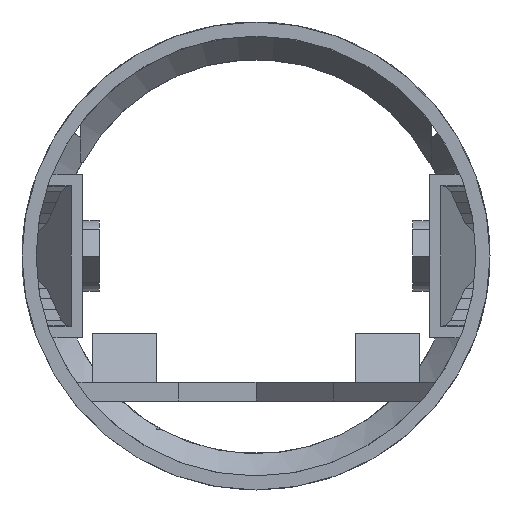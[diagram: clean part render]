
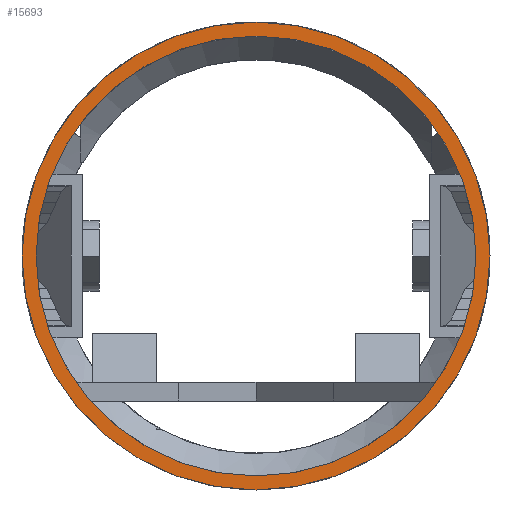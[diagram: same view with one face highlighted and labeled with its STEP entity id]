
A CAD part, left-side view. The second image highlights one B-rep face of the part: STEP entity #15693.
In plain terms, the highlighted planar face has unit normal (-1, 0, 0).
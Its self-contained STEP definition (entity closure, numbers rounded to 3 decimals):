
#21 = EDGE_CURVE('',#22,#22,#24,.T.);
#22 = VERTEX_POINT('',#23);
#23 = CARTESIAN_POINT('',(50.,20.,0.));
#24 = SURFACE_CURVE('',#25,(#30,#42),.PCURVE_S1.);
#25 = CIRCLE('',#26,20.);
#26 = AXIS2_PLACEMENT_3D('',#27,#28,#29);
#27 = CARTESIAN_POINT('',(50.,0.,0.));
#28 = DIRECTION('',(1.,0.,0.));
#29 = DIRECTION('',(-0.,1.,0.));
#30 = PCURVE('',#31,#36);
#31 = CYLINDRICAL_SURFACE('',#32,20.);
#32 = AXIS2_PLACEMENT_3D('',#33,#34,#35);
#33 = CARTESIAN_POINT('',(42.,0.,0.));
#34 = DIRECTION('',(1.,0.,0.));
#35 = DIRECTION('',(-0.,1.,0.));
#36 = DEFINITIONAL_REPRESENTATION('',(#37),#41);
#37 = LINE('',#38,#39);
#38 = CARTESIAN_POINT('',(0.,8.));
#39 = VECTOR('',#40,1.);
#40 = DIRECTION('',(1.,0.));
#41 = ( GEOMETRIC_REPRESENTATION_CONTEXT(2) 
PARAMETRIC_REPRESENTATION_CONTEXT() REPRESENTATION_CONTEXT('2D SPACE',''
  ) );
#42 = PCURVE('',#43,#48);
#43 = PLANE('',#44);
#44 = AXIS2_PLACEMENT_3D('',#45,#46,#47);
#45 = CARTESIAN_POINT('',(50.,-30.,-30.));
#46 = DIRECTION('',(1.,0.,-0.));
#47 = DIRECTION('',(0.,0.,1.));
#48 = DEFINITIONAL_REPRESENTATION('',(#49),#53);
#49 = CIRCLE('',#50,20.);
#50 = AXIS2_PLACEMENT_2D('',#51,#52);
#51 = CARTESIAN_POINT('',(30.,-30.));
#52 = DIRECTION('',(0.,-1.));
#53 = ( GEOMETRIC_REPRESENTATION_CONTEXT(2) 
PARAMETRIC_REPRESENTATION_CONTEXT() REPRESENTATION_CONTEXT('2D SPACE',''
  ) );
#3002 = CYLINDRICAL_SURFACE('',#3003,18.8);
#3003 = AXIS2_PLACEMENT_3D('',#3004,#3005,#3006);
#3004 = CARTESIAN_POINT('',(42.,0.,0.));
#3005 = DIRECTION('',(1.,0.,0.));
#3006 = DIRECTION('',(-0.,1.,0.));
#6809 = VERTEX_POINT('',#6810);
#6810 = CARTESIAN_POINT('',(50.,18.8,0.));
#6831 = EDGE_CURVE('',#6809,#6809,#6832,.T.);
#6832 = SURFACE_CURVE('',#6833,(#6838,#6845),.PCURVE_S1.);
#6833 = CIRCLE('',#6834,18.8);
#6834 = AXIS2_PLACEMENT_3D('',#6835,#6836,#6837);
#6835 = CARTESIAN_POINT('',(50.,0.,0.));
#6836 = DIRECTION('',(1.,0.,0.));
#6837 = DIRECTION('',(-0.,1.,0.));
#6838 = PCURVE('',#3002,#6839);
#6839 = DEFINITIONAL_REPRESENTATION('',(#6840),#6844);
#6840 = LINE('',#6841,#6842);
#6841 = CARTESIAN_POINT('',(0.,8.));
#6842 = VECTOR('',#6843,1.);
#6843 = DIRECTION('',(1.,0.));
#6844 = ( GEOMETRIC_REPRESENTATION_CONTEXT(2) 
PARAMETRIC_REPRESENTATION_CONTEXT() REPRESENTATION_CONTEXT('2D SPACE',''
  ) );
#6845 = PCURVE('',#43,#6846);
#6846 = DEFINITIONAL_REPRESENTATION('',(#6847),#6851);
#6847 = CIRCLE('',#6848,18.8);
#6848 = AXIS2_PLACEMENT_2D('',#6849,#6850);
#6849 = CARTESIAN_POINT('',(30.,-30.));
#6850 = DIRECTION('',(0.,-1.));
#6851 = ( GEOMETRIC_REPRESENTATION_CONTEXT(2) 
PARAMETRIC_REPRESENTATION_CONTEXT() REPRESENTATION_CONTEXT('2D SPACE',''
  ) );
#15693 = ADVANCED_FACE('',(#15694,#15697),#43,.F.);
#15694 = FACE_BOUND('',#15695,.F.);
#15695 = EDGE_LOOP('',(#15696));
#15696 = ORIENTED_EDGE('',*,*,#21,.T.);
#15697 = FACE_BOUND('',#15698,.F.);
#15698 = EDGE_LOOP('',(#15699));
#15699 = ORIENTED_EDGE('',*,*,#6831,.F.);
